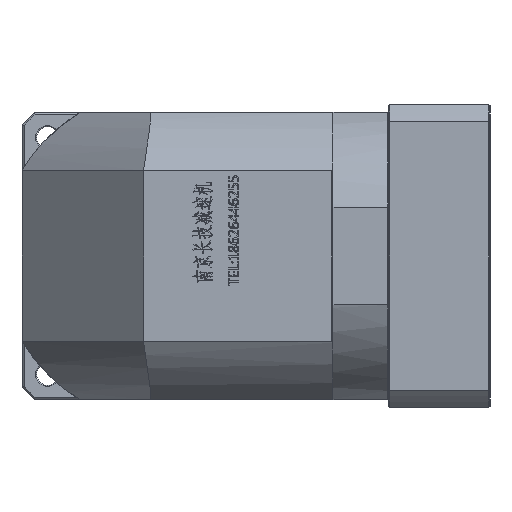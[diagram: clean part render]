
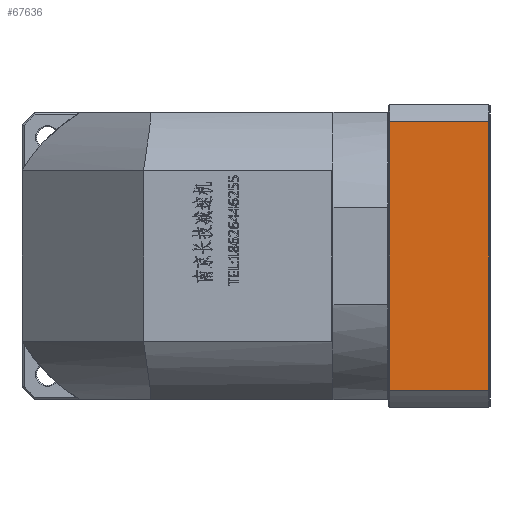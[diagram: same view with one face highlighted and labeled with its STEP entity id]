
A CAD part, left-side view. The second image highlights one B-rep face of the part: STEP entity #67636.
In plain terms, the highlighted planar face has unit normal (-1, 0, 0).
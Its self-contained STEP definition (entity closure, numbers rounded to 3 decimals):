
#18733 = CARTESIAN_POINT ( 'NONE',  ( -314.103, -74.559, -123.692 ) ) ;
#23203 = ORIENTED_EDGE ( 'NONE', *, *, #103796, .F. ) ;
#23393 = DIRECTION ( 'NONE',  ( 0., 1., 0. ) ) ;
#27199 = CARTESIAN_POINT ( 'NONE',  ( -314.103, -25.559, -132.549 ) ) ;
#28516 = VERTEX_POINT ( 'NONE', #170454 ) ;
#45252 = ORIENTED_EDGE ( 'NONE', *, *, #50835, .F. ) ;
#50835 = EDGE_CURVE ( 'NONE', #125895, #165040, #168866, .T. ) ;
#52590 = CARTESIAN_POINT ( 'NONE',  ( -314.103, -75.059, 8.595 ) ) ;
#54428 = VECTOR ( 'NONE', #66312, 1000. ) ;
#66312 = DIRECTION ( 'NONE',  ( 0., -1., 0. ) ) ;
#67636 = ADVANCED_FACE ( 'NONE', ( #83004 ), #109763, .F. ) ;
#72856 = CARTESIAN_POINT ( 'NONE',  ( -314.103, -74.559, -132.549 ) ) ;
#80045 = VERTEX_POINT ( 'NONE', #101322 ) ;
#83004 = FACE_OUTER_BOUND ( 'NONE', #111198, .T. ) ;
#91563 = CARTESIAN_POINT ( 'NONE',  ( -314.103, 260.612, -123.692 ) ) ;
#95836 = VECTOR ( 'NONE', #23393, 1000. ) ;
#96020 = CARTESIAN_POINT ( 'NONE',  ( -314.103, -75.059, -132.549 ) ) ;
#96506 = DIRECTION ( 'NONE',  ( 0., 0., -1. ) ) ;
#99825 = DIRECTION ( 'NONE',  ( 0., 0., -1. ) ) ;
#101322 = CARTESIAN_POINT ( 'NONE',  ( -314.103, -25.559, 8.595 ) ) ;
#103796 = EDGE_CURVE ( 'NONE', #80045, #125895, #148547, .T. ) ;
#105645 = EDGE_CURVE ( 'NONE', #80045, #28516, #173290, .T. ) ;
#109168 = DIRECTION ( 'NONE',  ( 1., 0., 0. ) ) ;
#109763 = PLANE ( 'NONE',  #126143 ) ;
#111198 = EDGE_LOOP ( 'NONE', ( #23203, #161458, #146021, #45252 ) ) ;
#125895 = VERTEX_POINT ( 'NONE', #153948 ) ;
#126143 = AXIS2_PLACEMENT_3D ( 'NONE', #96020, #109168, #163546 ) ;
#132413 = VECTOR ( 'NONE', #99825, 1000. ) ;
#134639 = EDGE_CURVE ( 'NONE', #165040, #28516, #140889, .T. ) ;
#140889 = LINE ( 'NONE', #91563, #95836 ) ;
#146021 = ORIENTED_EDGE ( 'NONE', *, *, #134639, .F. ) ;
#148547 = LINE ( 'NONE', #52590, #54428 ) ;
#153948 = CARTESIAN_POINT ( 'NONE',  ( -314.103, -74.559, 8.595 ) ) ;
#161458 = ORIENTED_EDGE ( 'NONE', *, *, #105645, .T. ) ;
#163546 = DIRECTION ( 'NONE',  ( 0., 1., 0. ) ) ;
#165040 = VERTEX_POINT ( 'NONE', #18733 ) ;
#168866 = LINE ( 'NONE', #72856, #132413 ) ;
#170454 = CARTESIAN_POINT ( 'NONE',  ( -314.103, -25.559, -123.692 ) ) ;
#173290 = LINE ( 'NONE', #27199, #175372 ) ;
#175372 = VECTOR ( 'NONE', #96506, 1000. ) ;
